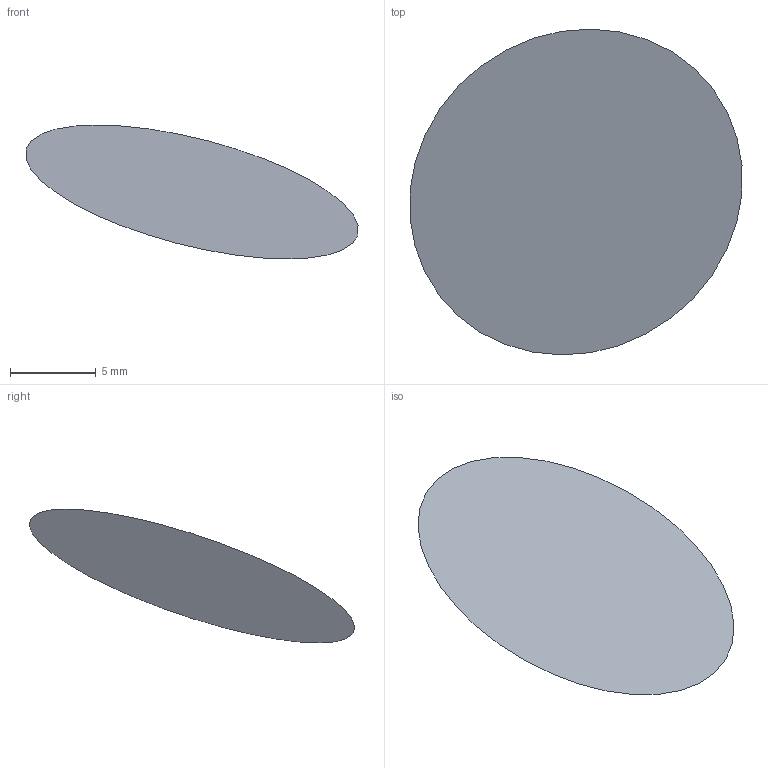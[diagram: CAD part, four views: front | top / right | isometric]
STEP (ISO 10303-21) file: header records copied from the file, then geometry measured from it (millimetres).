
FILE_DESCRIPTION(('FreeCAD Model'),'2;1');
FILE_NAME('Open CASCADE Shape Model','2026-09-11T18:34:06',('FreeCAD'),( 'FreeCAD'),'Open CASCADE STEP processor 7.8','FreeCAD','Unknown');
FILE_SCHEMA(('AUTOMOTIVE_DESIGN { 1 0 10303 214 1 1 1 1 }'));
Length unit declared in the file: millimetre
Products named in the file (1): Open CASCADE STEP translator 7.8 3
Bounding box: 19.37 x 19 x 7.81 mm (x, y, z)
Surface area: 314.2 mm2 (no closed solid volume)
Topology: 0 solids, 1 shells, 1 faces, 1 edges, 1 vertices
Faces by surface type: plane 1
Entity records: 35 total; most frequent: DIRECTION 6, CARTESIAN_POINT 4, AXIS2_PLACEMENT_3D 3, APPLICATION_PROTOCOL_DEFINITION 1, APPLICATION_CONTEXT 1, SHAPE_DEFINITION_REPRESENTATION 1, PRODUCT_DEFINITION_SHAPE 1, PRODUCT_DEFINITION 1
